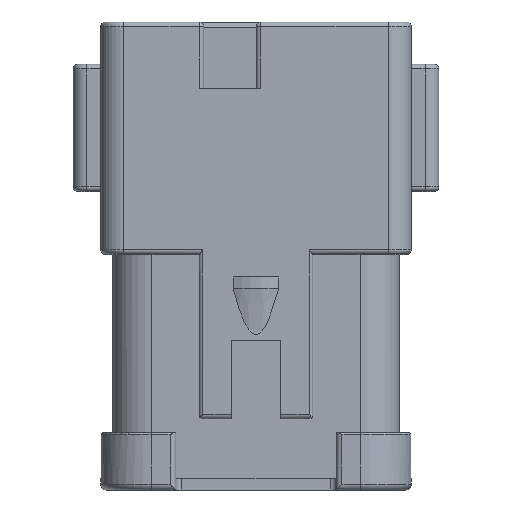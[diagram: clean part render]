
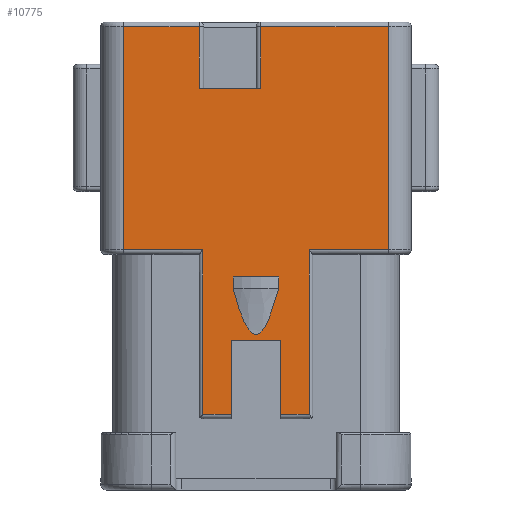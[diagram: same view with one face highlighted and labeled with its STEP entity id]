
A CAD part, front view. The second image highlights one B-rep face of the part: STEP entity #10775.
In plain terms, the highlighted planar face has unit normal (0, -1, 0).
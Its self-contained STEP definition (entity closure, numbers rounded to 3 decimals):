
#237=DIRECTION('',(0.,0.,1.));
#238=VECTOR('',#237,18.237);
#239=CARTESIAN_POINT('',(5.906,-11.125,-43.51));
#240=LINE('',#239,#238);
#245=CARTESIAN_POINT('',(5.906,-11.125,-43.51));
#258=DIRECTION('',(-1.,0.,0.));
#259=VECTOR('',#258,5.095);
#260=CARTESIAN_POINT('',(2.547,-11.125,-28.27));
#261=LINE('',#260,#259);
#262=DIRECTION('',(0.,0.,-1.));
#263=VECTOR('',#262,1.27);
#264=CARTESIAN_POINT('',(-2.547,-11.125,-28.27));
#265=LINE('',#264,#263);
#266=CARTESIAN_POINT('',(2.547,-11.125,-29.54));
#267=CARTESIAN_POINT('',(2.487,-11.125,-29.772));
#268=CARTESIAN_POINT('',(2.368,-11.125,-30.213));
#269=CARTESIAN_POINT('',(2.198,-11.125,-30.803));
#270=CARTESIAN_POINT('',(2.036,-11.125,-31.331));
#271=CARTESIAN_POINT('',(1.881,-11.125,-31.802));
#272=CARTESIAN_POINT('',(1.732,-11.125,-32.221));
#273=CARTESIAN_POINT('',(1.59,-11.125,-32.592));
#274=CARTESIAN_POINT('',(1.454,-11.125,-32.92));
#275=CARTESIAN_POINT('',(1.324,-11.125,-33.208));
#276=CARTESIAN_POINT('',(1.198,-11.125,-33.461));
#277=CARTESIAN_POINT('',(1.078,-11.125,-33.68));
#278=CARTESIAN_POINT('',(0.963,-11.125,-33.869));
#279=CARTESIAN_POINT('',(0.854,-11.125,-34.03));
#280=CARTESIAN_POINT('',(0.749,-11.125,-34.166));
#281=CARTESIAN_POINT('',(0.649,-11.125,-34.279));
#282=CARTESIAN_POINT('',(0.554,-11.125,-34.371));
#283=CARTESIAN_POINT('',(0.466,-11.125,-34.445));
#284=CARTESIAN_POINT('',(0.383,-11.125,-34.502));
#285=CARTESIAN_POINT('',(0.306,-11.125,-34.545));
#286=CARTESIAN_POINT('',(0.234,-11.125,-34.577));
#287=CARTESIAN_POINT('',(0.165,-11.125,-34.599));
#288=CARTESIAN_POINT('',(0.098,-11.125,-34.614));
#289=CARTESIAN_POINT('',(0.032,-11.125,-34.62));
#290=CARTESIAN_POINT('',(-0.032,-11.125,-34.62));
#291=CARTESIAN_POINT('',(-0.098,-11.125,-34.614));
#292=CARTESIAN_POINT('',(-0.165,-11.125,-34.599));
#293=CARTESIAN_POINT('',(-0.234,-11.125,-34.577));
#294=CARTESIAN_POINT('',(-0.306,-11.125,-34.545));
#295=CARTESIAN_POINT('',(-0.383,-11.125,-34.502));
#296=CARTESIAN_POINT('',(-0.466,-11.125,-34.445));
#297=CARTESIAN_POINT('',(-0.554,-11.125,-34.371));
#298=CARTESIAN_POINT('',(-0.649,-11.125,-34.279));
#299=CARTESIAN_POINT('',(-0.749,-11.125,-34.166));
#300=CARTESIAN_POINT('',(-0.854,-11.125,-34.03));
#301=CARTESIAN_POINT('',(-0.964,-11.125,-33.869));
#302=CARTESIAN_POINT('',(-1.079,-11.125,-33.68));
#303=CARTESIAN_POINT('',(-1.198,-11.125,-33.46));
#304=CARTESIAN_POINT('',(-1.324,-11.125,-33.208));
#305=CARTESIAN_POINT('',(-1.454,-11.125,-32.92));
#306=CARTESIAN_POINT('',(-1.59,-11.125,-32.592));
#307=CARTESIAN_POINT('',(-1.732,-11.125,-32.221));
#308=CARTESIAN_POINT('',(-1.881,-11.125,-31.802));
#309=CARTESIAN_POINT('',(-2.036,-11.125,-31.331));
#310=CARTESIAN_POINT('',(-2.198,-11.125,-30.803));
#311=CARTESIAN_POINT('',(-2.368,-11.125,-30.213));
#312=CARTESIAN_POINT('',(-2.487,-11.125,-29.772));
#313=CARTESIAN_POINT('',(-2.547,-11.125,-29.54));
#315=DIRECTION('',(0.,0.,1.));
#316=VECTOR('',#315,1.27);
#317=CARTESIAN_POINT('',(2.547,-11.125,-29.54));
#318=LINE('',#317,#316);
#319=DIRECTION('',(-1.,0.,0.));
#320=VECTOR('',#319,8.369);
#321=CARTESIAN_POINT('',(-6.299,-11.125,-0.508));
#322=LINE('',#321,#320);
#323=DIRECTION('',(0.,0.,1.));
#324=VECTOR('',#323,6.858);
#325=CARTESIAN_POINT('',(-6.299,-11.125,-7.366));
#326=LINE('',#325,#324);
#327=DIRECTION('',(0.,0.,-1.));
#328=VECTOR('',#327,6.858);
#329=CARTESIAN_POINT('',(0.508,-11.125,-0.508));
#330=LINE('',#329,#328);
#331=DIRECTION('',(1.,0.,0.));
#332=VECTOR('',#331,14.161);
#333=CARTESIAN_POINT('',(0.508,-11.125,-0.508));
#334=LINE('',#333,#332);
#335=DIRECTION('',(-1.,0.,0.));
#336=VECTOR('',#335,8.763);
#337=CARTESIAN_POINT('',(14.669,-11.125,-25.273));
#338=LINE('',#337,#336);
#339=DIRECTION('',(-1.,0.,0.));
#340=VECTOR('',#339,3.175);
#341=CARTESIAN_POINT('',(5.906,-11.125,-43.51));
#342=LINE('',#341,#340);
#343=DIRECTION('',(0.,0.,1.));
#344=VECTOR('',#343,8.179);
#345=CARTESIAN_POINT('',(2.731,-11.125,-43.51));
#346=LINE('',#345,#344);
#347=DIRECTION('',(1.,0.,0.));
#348=VECTOR('',#347,5.461);
#349=CARTESIAN_POINT('',(-2.731,-11.125,-35.331));
#350=LINE('',#349,#348);
#351=DIRECTION('',(0.,0.,1.));
#352=VECTOR('',#351,8.179);
#353=CARTESIAN_POINT('',(-2.731,-11.125,-43.51));
#354=LINE('',#353,#352);
#355=DIRECTION('',(-1.,0.,0.));
#356=VECTOR('',#355,3.175);
#357=CARTESIAN_POINT('',(-2.731,-11.125,-43.51));
#358=LINE('',#357,#356);
#359=DIRECTION('',(-1.,0.,0.));
#360=VECTOR('',#359,8.763);
#361=CARTESIAN_POINT('',(-5.906,-11.125,-25.273));
#362=LINE('',#361,#360);
#363=DIRECTION('',(0.,0.,1.));
#364=VECTOR('',#363,24.765);
#365=CARTESIAN_POINT('',(-14.669,-11.125,-25.273));
#366=LINE('',#365,#364);
#451=CARTESIAN_POINT('',(5.906,-11.125,-25.273));
#458=DIRECTION('',(0.,0.,1.));
#459=VECTOR('',#458,24.765);
#460=CARTESIAN_POINT('',(14.669,-11.125,-25.273));
#461=LINE('',#460,#459);
#4220=DIRECTION('',(-1.,0.,0.));
#4221=VECTOR('',#4220,6.807);
#4222=CARTESIAN_POINT('',(0.508,-11.125,-7.366));
#4223=LINE('',#4222,#4221);
#4413=CARTESIAN_POINT('',(-5.906,-11.125,-25.273));
#4435=DIRECTION('',(0.,0.,-1.));
#4436=VECTOR('',#4435,18.237);
#4437=CARTESIAN_POINT('',(-5.906,-11.125,-25.273));
#4438=LINE('',#4437,#4436);
#4490=CARTESIAN_POINT('',(-5.906,-11.125,-43.51));
#8550=CARTESIAN_POINT('',(2.547,-11.125,-28.27));
#8551=CARTESIAN_POINT('',(-2.547,-11.125,-28.27));
#8552=VERTEX_POINT('',#8550);
#8553=VERTEX_POINT('',#8551);
#8554=CARTESIAN_POINT('',(2.547,-11.125,-29.54));
#8555=VERTEX_POINT('',#8554);
#8556=VERTEX_POINT('',#313);
#8573=VERTEX_POINT('',#245);
#8580=VERTEX_POINT('',#4490);
#8581=CARTESIAN_POINT('',(2.731,-11.125,-43.51));
#8582=VERTEX_POINT('',#8581);
#8585=CARTESIAN_POINT('',(-2.731,-11.125,-43.51));
#8586=VERTEX_POINT('',#8585);
#8591=CARTESIAN_POINT('',(-2.731,-11.125,-35.331));
#8592=VERTEX_POINT('',#8591);
#8593=CARTESIAN_POINT('',(2.731,-11.125,-35.331));
#8594=VERTEX_POINT('',#8593);
#8598=VERTEX_POINT('',#4413);
#8603=VERTEX_POINT('',#451);
#9278=CARTESIAN_POINT('',(14.669,-11.125,-25.273));
#9279=VERTEX_POINT('',#9278);
#9308=CARTESIAN_POINT('',(-14.669,-11.125,-25.273));
#9309=VERTEX_POINT('',#9308);
#9366=CARTESIAN_POINT('',(-14.669,-11.125,-0.508));
#9367=VERTEX_POINT('',#9366);
#9370=CARTESIAN_POINT('',(-6.299,-11.125,-0.508));
#9371=VERTEX_POINT('',#9370);
#9384=CARTESIAN_POINT('',(14.669,-11.125,-0.508));
#9385=VERTEX_POINT('',#9384);
#9491=CARTESIAN_POINT('',(0.508,-11.125,-0.508));
#9492=VERTEX_POINT('',#9491);
#9493=CARTESIAN_POINT('',(0.508,-11.125,-7.366));
#9495=VERTEX_POINT('',#9493);
#9579=CARTESIAN_POINT('',(-6.299,-11.125,-7.366));
#9580=VERTEX_POINT('',#9579);
#10727=CARTESIAN_POINT('',(-14.669,-11.125,-6.604));
#10728=DIRECTION('',(0.,-1.,0.));
#10729=DIRECTION('',(1.,0.,0.));
#10730=AXIS2_PLACEMENT_3D('',#10727,#10728,#10729);
#10731=PLANE('',#10730);
#10733=ORIENTED_EDGE('',*,*,#10732,.F.);
#10735=ORIENTED_EDGE('',*,*,#10734,.F.);
#10737=ORIENTED_EDGE('',*,*,#10736,.F.);
#10739=ORIENTED_EDGE('',*,*,#10738,.F.);
#10741=ORIENTED_EDGE('',*,*,#10740,.T.);
#10743=ORIENTED_EDGE('',*,*,#10742,.F.);
#10745=ORIENTED_EDGE('',*,*,#10744,.T.);
#10746=ORIENTED_EDGE('',*,*,#10715,.F.);
#10748=ORIENTED_EDGE('',*,*,#10747,.T.);
#10750=ORIENTED_EDGE('',*,*,#10749,.T.);
#10752=ORIENTED_EDGE('',*,*,#10751,.F.);
#10754=ORIENTED_EDGE('',*,*,#10753,.F.);
#10756=ORIENTED_EDGE('',*,*,#10755,.T.);
#10758=ORIENTED_EDGE('',*,*,#10757,.F.);
#10760=ORIENTED_EDGE('',*,*,#10759,.T.);
#10762=ORIENTED_EDGE('',*,*,#10761,.T.);
#10763=EDGE_LOOP('',(#10733,#10735,#10737,#10739,#10741,#10743,#10745,#10746,
#10748,#10750,#10752,#10754,#10756,#10758,#10760,#10762));
#10764=FACE_OUTER_BOUND('',#10763,.F.);
#10766=ORIENTED_EDGE('',*,*,#10765,.T.);
#10768=ORIENTED_EDGE('',*,*,#10767,.T.);
#10770=ORIENTED_EDGE('',*,*,#10769,.F.);
#10772=ORIENTED_EDGE('',*,*,#10771,.T.);
#10773=EDGE_LOOP('',(#10766,#10768,#10770,#10772));
#10774=FACE_BOUND('',#10773,.F.);
#10775=ADVANCED_FACE('',(#10764,#10774),#10731,.T.);
#314=B_SPLINE_CURVE_WITH_KNOTS('',3,(#266,#267,#268,#269,#270,#271,#272,#273,
#274,#275,#276,#277,#278,#279,#280,#281,#282,#283,#284,#285,#286,#287,#288,#289,
#290,#291,#292,#293,#294,#295,#296,#297,#298,#299,#300,#301,#302,#303,#304,#305,
#306,#307,#308,#309,#310,#311,#312,#313),.UNSPECIFIED.,.F.,.F.,(4,1,1,1,1,1,1,1,
1,1,1,1,1,1,1,1,1,1,1,1,1,1,1,1,1,1,1,1,1,1,1,1,1,1,1,1,1,1,1,1,1,1,1,1,1,4),(
0.,0.022,0.044,0.067,0.089,
0.111,0.133,0.156,0.178,0.2,
0.222,0.244,0.267,0.289,
0.311,0.333,0.356,0.378,0.4,
0.422,0.444,0.467,0.489,
0.511,0.533,0.556,0.578,0.6,
0.622,0.644,0.667,0.689,
0.711,0.733,0.756,0.778,0.8,
0.822,0.844,0.867,0.889,
0.911,0.933,0.956,0.978,1.),
.UNSPECIFIED.);
#10715=EDGE_CURVE('',#8573,#8603,#240,.T.);
#10732=EDGE_CURVE('',#9371,#9367,#322,.T.);
#10734=EDGE_CURVE('',#9580,#9371,#326,.T.);
#10736=EDGE_CURVE('',#9495,#9580,#4223,.T.);
#10738=EDGE_CURVE('',#9492,#9495,#330,.T.);
#10740=EDGE_CURVE('',#9492,#9385,#334,.T.);
#10742=EDGE_CURVE('',#9279,#9385,#461,.T.);
#10744=EDGE_CURVE('',#9279,#8603,#338,.T.);
#10747=EDGE_CURVE('',#8573,#8582,#342,.T.);
#10749=EDGE_CURVE('',#8582,#8594,#346,.T.);
#10751=EDGE_CURVE('',#8592,#8594,#350,.T.);
#10753=EDGE_CURVE('',#8586,#8592,#354,.T.);
#10755=EDGE_CURVE('',#8586,#8580,#358,.T.);
#10757=EDGE_CURVE('',#8598,#8580,#4438,.T.);
#10759=EDGE_CURVE('',#8598,#9309,#362,.T.);
#10761=EDGE_CURVE('',#9309,#9367,#366,.T.);
#10765=EDGE_CURVE('',#8552,#8553,#261,.T.);
#10767=EDGE_CURVE('',#8553,#8556,#265,.T.);
#10769=EDGE_CURVE('',#8555,#8556,#314,.T.);
#10771=EDGE_CURVE('',#8555,#8552,#318,.T.);
